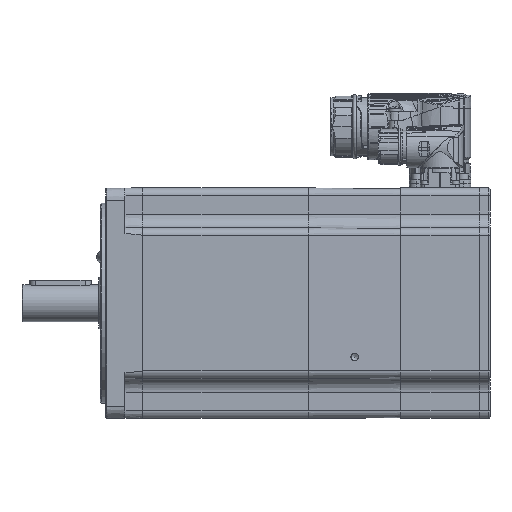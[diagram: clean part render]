
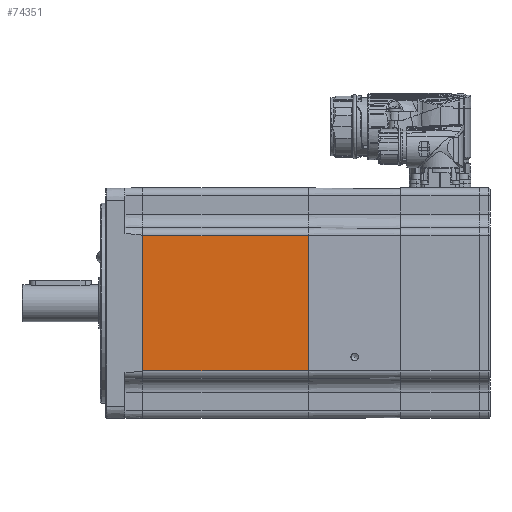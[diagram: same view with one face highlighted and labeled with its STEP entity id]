
A CAD part, left-side view. The second image highlights one B-rep face of the part: STEP entity #74351.
In plain terms, the highlighted planar face has unit normal (-1, 0, 0) as drawn and (0, -1, 0) by its records, which use the part's own axes.
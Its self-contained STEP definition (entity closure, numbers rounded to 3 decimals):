
#4370=LINE('',#150882,#7048);
#4391=LINE('',#150988,#7069);
#4394=LINE('',#151021,#7072);
#4395=LINE('',#151022,#7073);
#7048=VECTOR('',#90614,1000.);
#7069=VECTOR('',#90699,1000.);
#7072=VECTOR('',#90738,1000.);
#7073=VECTOR('',#90739,1000.);
#8260=PLANE('',#79130);
#23611=ORIENTED_EDGE('',*,*,#32021,.F.);
#23612=ORIENTED_EDGE('',*,*,#32086,.T.);
#23613=ORIENTED_EDGE('',*,*,#32073,.T.);
#23614=ORIENTED_EDGE('',*,*,#32087,.T.);
#32021=EDGE_CURVE('',#37262,#37263,#4370,.T.);
#32073=EDGE_CURVE('',#37315,#37314,#4391,.T.);
#32086=EDGE_CURVE('',#37262,#37315,#4394,.T.);
#32087=EDGE_CURVE('',#37314,#37263,#4395,.F.);
#37262=VERTEX_POINT('',#150883);
#37263=VERTEX_POINT('',#150884);
#37314=VERTEX_POINT('',#150987);
#37315=VERTEX_POINT('',#150989);
#43789=EDGE_LOOP('',(#23611,#23612,#23613,#23614));
#47875=FACE_BOUND('',#43789,.T.);
#74351=ADVANCED_FACE('',(#47875),#8260,.T.);
#79130=AXIS2_PLACEMENT_3D('',#151020,#90736,#90737);
#90614=DIRECTION('',(0.,0.,-1.));
#90699=DIRECTION('',(0.,0.,-1.));
#90736=DIRECTION('',(0.,-1.,0.));
#90737=DIRECTION('',(0.,0.,-1.));
#90738=DIRECTION('',(-1.,0.,0.));
#90739=DIRECTION('',(-1.,0.,0.));
#150882=CARTESIAN_POINT('',(-1.,-75.,75.));
#150883=CARTESIAN_POINT('',(-1.,-75.,44.));
#150884=CARTESIAN_POINT('',(-1.,-75.,-44.));
#150987=CARTESIAN_POINT('',(-109.,-75.,-44.));
#150988=CARTESIAN_POINT('',(-109.,-75.,75.));
#150989=CARTESIAN_POINT('',(-109.,-75.,44.));
#151020=CARTESIAN_POINT('',(-300.,-75.,75.));
#151021=CARTESIAN_POINT('',(-300.,-75.,44.));
#151022=CARTESIAN_POINT('',(0.,-75.,-44.));
